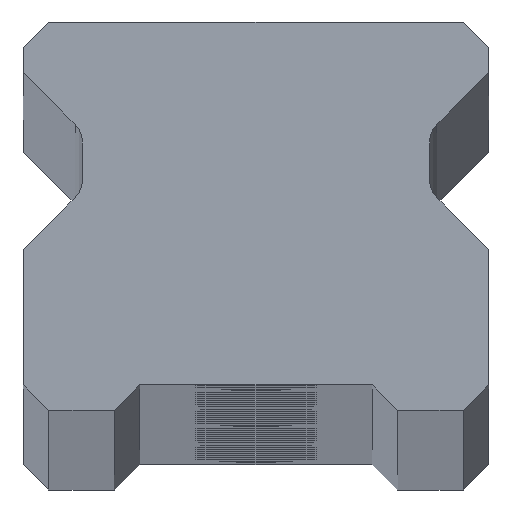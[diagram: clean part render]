
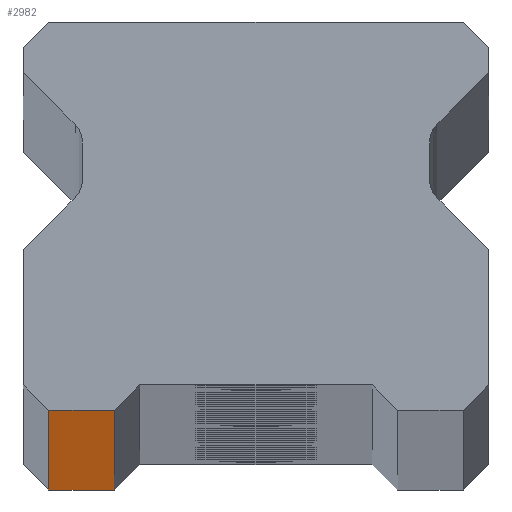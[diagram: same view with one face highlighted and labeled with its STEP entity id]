
A CAD part, top view. The second image highlights one B-rep face of the part: STEP entity #2982.
In plain terms, the highlighted planar face has unit normal (0, -1, 0).
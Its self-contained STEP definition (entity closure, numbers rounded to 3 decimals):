
#55 = DIRECTION ( 'NONE',  ( 0., 0., -1. ) ) ;
#133 = CARTESIAN_POINT ( 'NONE',  ( -10.25, 0., 1130. ) ) ;
#287 = EDGE_CURVE ( 'NONE', #3792, #5330, #6177, .T. ) ;
#556 = CARTESIAN_POINT ( 'NONE',  ( -7., 0., -1130. ) ) ;
#1058 = VECTOR ( 'NONE', #4267, 1000. ) ;
#1124 = VECTOR ( 'NONE', #3165, 1000. ) ;
#1242 = AXIS2_PLACEMENT_3D ( 'NONE', #5274, #6490, #2842 ) ;
#1790 = CARTESIAN_POINT ( 'NONE',  ( -10.25, 0., -1130. ) ) ;
#1841 = CARTESIAN_POINT ( 'NONE',  ( -7., 0., 1130. ) ) ;
#1883 = CARTESIAN_POINT ( 'NONE',  ( -10.25, 0., 1130. ) ) ;
#1974 = DIRECTION ( 'NONE',  ( 1., 0., 0. ) ) ;
#1976 = VECTOR ( 'NONE', #1974, 1000. ) ;
#2074 = CARTESIAN_POINT ( 'NONE',  ( 11.5, 0., 1130. ) ) ;
#2079 = VERTEX_POINT ( 'NONE', #1790 ) ;
#2235 = PLANE ( 'NONE',  #1242 ) ;
#2842 = DIRECTION ( 'NONE',  ( -1., 0., 0. ) ) ;
#2982 = ADVANCED_FACE ( 'NONE', ( #4364 ), #2235, .F. ) ;
#3165 = DIRECTION ( 'NONE',  ( 1., 0., 0. ) ) ;
#3268 = VECTOR ( 'NONE', #55, 1000. ) ;
#3518 = ORIENTED_EDGE ( 'NONE', *, *, #5380, .T. ) ;
#3602 = EDGE_CURVE ( 'NONE', #2079, #7706, #7753, .T. ) ;
#3792 = VERTEX_POINT ( 'NONE', #1883 ) ;
#4267 = DIRECTION ( 'NONE',  ( 0., 0., 1. ) ) ;
#4364 = FACE_OUTER_BOUND ( 'NONE', #7815, .T. ) ;
#5040 = ORIENTED_EDGE ( 'NONE', *, *, #3602, .T. ) ;
#5274 = CARTESIAN_POINT ( 'NONE',  ( 11.5, 0., 1130. ) ) ;
#5330 = VERTEX_POINT ( 'NONE', #1841 ) ;
#5366 = ORIENTED_EDGE ( 'NONE', *, *, #7283, .T. ) ;
#5380 = EDGE_CURVE ( 'NONE', #3792, #2079, #7078, .T. ) ;
#5913 = LINE ( 'NONE', #556, #1058 ) ;
#6177 = LINE ( 'NONE', #2074, #1124 ) ;
#6228 = CARTESIAN_POINT ( 'NONE',  ( 11.5, 0., -1130. ) ) ;
#6477 = CARTESIAN_POINT ( 'NONE',  ( -7., 0., -1130. ) ) ;
#6490 = DIRECTION ( 'NONE',  ( 0., 1., 0. ) ) ;
#6619 = ORIENTED_EDGE ( 'NONE', *, *, #287, .F. ) ;
#7078 = LINE ( 'NONE', #133, #3268 ) ;
#7283 = EDGE_CURVE ( 'NONE', #7706, #5330, #5913, .T. ) ;
#7706 = VERTEX_POINT ( 'NONE', #6477 ) ;
#7753 = LINE ( 'NONE', #6228, #1976 ) ;
#7815 = EDGE_LOOP ( 'NONE', ( #5040, #5366, #6619, #3518 ) ) ;
